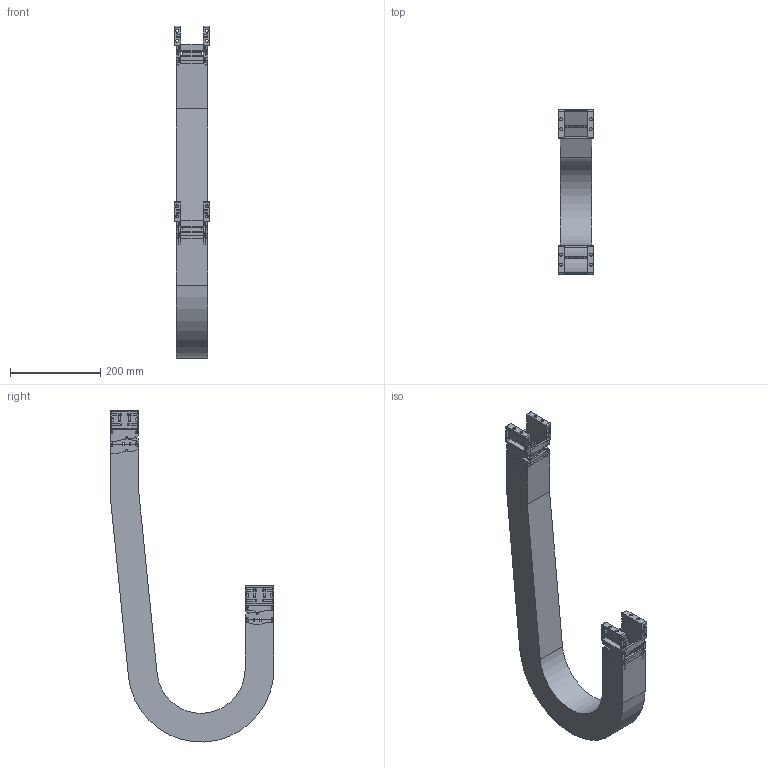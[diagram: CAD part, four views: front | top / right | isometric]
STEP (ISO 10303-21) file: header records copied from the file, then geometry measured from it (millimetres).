
FILE_DESCRIPTION((''),'2;1');
FILE_NAME('KST-50050-125_ASM','2017-12-07T',('KUNI004K'),(''),'PRO/ENGINEER BY PARAMETRIC TECHNOLOGY CORPORATION, 2015200','PRO/ENGINEER BY PARAMETRIC TECHNOLOGY CORPORATION, 2015200','');
FILE_SCHEMA(('AUTOMOTIVE_DESIGN { 1 0 10303 214 1 1 1 1 }'));
Products named in the file (13): 50FBR; 50FBL; 40050C; KST50FB_W050_ASM; KST50125R; KST50125L; 40050H; KST50050-125_1_ASM; KST50050_R125_BODY; 50MBR; 50MBL; KST50MB_W050_ASM; KST-50050-125_ASM
Assembly tree (19 placements, depth 3):
  KST-50050-125_ASM
    KST50FB_W050_ASM
      50FBR
      50FBL
      40050C  x2
    KST50050-125_1_ASM  x2
      KST50125R
      KST50125L
      40050C
      40050H
    KST50050_R125_BODY
    KST50MB_W050_ASM
      50MBR
      50MBL
      40050C  x2
Bounding box: 78 x 364 x 737.35 mm (x, y, z)
Volume: 2188701.7 mm3; surface area: 706439.7 mm2
Topology: 21 solids, 21 shells, 2648 faces, 7182 edges, 4604 vertices
Faces by surface type: plane 1350, cylinder 922, bspline 312, torus 64
Entity records: 66690 total; most frequent: CARTESIAN_POINT 13684, ORIENTED_EDGE 7112, DIRECTION 6432, PRESENTATION_STYLE_ASSIGNMENT 4856, STYLED_ITEM 4856, CURVE_STYLE 3556, EDGE_CURVE 3556, VERTEX_POINT 2296
